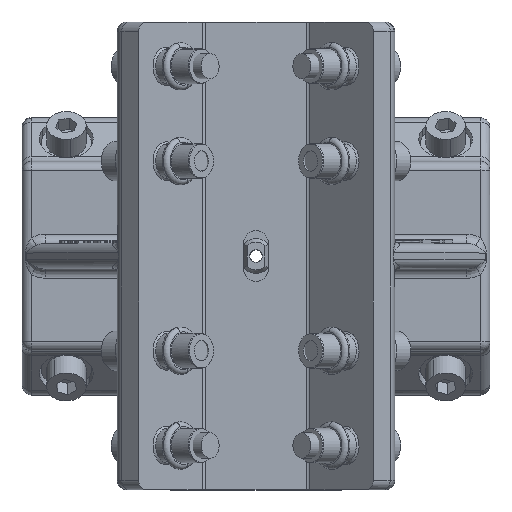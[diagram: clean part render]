
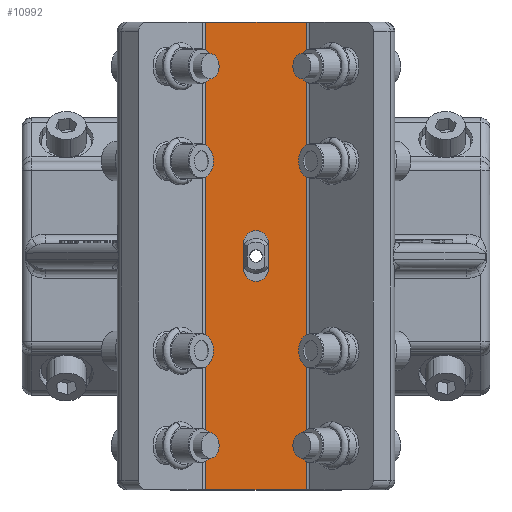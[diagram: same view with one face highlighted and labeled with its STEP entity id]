
A CAD part, top view. The second image highlights one B-rep face of the part: STEP entity #10992.
In plain terms, the highlighted planar face has unit normal (0, 0, 1).
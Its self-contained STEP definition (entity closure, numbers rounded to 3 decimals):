
#8354=CARTESIAN_POINT('Vertex',(15.947,-74.,80.)) ;
#8357=CARTESIAN_POINT('Line Origine',(0.,-74.,80.)) ;
#8361=CARTESIAN_POINT('Vertex',(-15.947,-74.,80.)) ;
#10916=CARTESIAN_POINT('Line Origine',(15.947,0.,80.)) ;
#10920=CARTESIAN_POINT('Vertex',(15.947,74.,80.)) ;
#10935=CARTESIAN_POINT('Axis2P3D Location',(15.947,0.,80.)) ;
#10940=CARTESIAN_POINT('Line Origine',(-15.947,0.,80.)) ;
#10944=CARTESIAN_POINT('Vertex',(-15.947,74.,80.)) ;
#10947=CARTESIAN_POINT('Line Origine',(0.,74.,80.)) ;
#10958=CARTESIAN_POINT('Axis2P3D Location',(0.,-4.,80.)) ;
#10962=CARTESIAN_POINT('Vertex',(-4.,-4.,80.)) ;
#10964=CARTESIAN_POINT('Vertex',(4.,-4.,80.)) ;
#10967=CARTESIAN_POINT('Line Origine',(-4.,0.,80.)) ;
#10971=CARTESIAN_POINT('Vertex',(-4.,4.,80.)) ;
#10974=CARTESIAN_POINT('Axis2P3D Location',(0.,4.,80.)) ;
#10978=CARTESIAN_POINT('Vertex',(4.,4.,80.)) ;
#10981=CARTESIAN_POINT('Line Origine',(4.,0.,80.)) ;
#8358=DIRECTION('Vector Direction',(-1.,0.,0.)) ;
#10917=DIRECTION('Vector Direction',(0.,1.,0.)) ;
#10936=DIRECTION('Axis2P3D Direction',(0.,0.,-1.)) ;
#10937=DIRECTION('Axis2P3D XDirection',(-1.,0.,0.)) ;
#10941=DIRECTION('Vector Direction',(0.,1.,0.)) ;
#10948=DIRECTION('Vector Direction',(-1.,0.,0.)) ;
#10959=DIRECTION('Axis2P3D Direction',(0.,0.,-1.)) ;
#10968=DIRECTION('Vector Direction',(0.,1.,0.)) ;
#10975=DIRECTION('Axis2P3D Direction',(0.,0.,-1.)) ;
#10982=DIRECTION('Vector Direction',(0.,-1.,0.)) ;
#10938=AXIS2_PLACEMENT_3D('Plane Axis2P3D',#10935,#10936,#10937) ;
#10960=AXIS2_PLACEMENT_3D('Circle Axis2P3D',#10958,#10959,$) ;
#10976=AXIS2_PLACEMENT_3D('Circle Axis2P3D',#10974,#10975,$) ;
#10953=ORIENTED_EDGE('',*,*,#10946,.F.) ;
#10954=ORIENTED_EDGE('',*,*,#8363,.T.) ;
#10955=ORIENTED_EDGE('',*,*,#10922,.T.) ;
#10956=ORIENTED_EDGE('',*,*,#10951,.F.) ;
#10987=ORIENTED_EDGE('',*,*,#10966,.F.) ;
#10988=ORIENTED_EDGE('',*,*,#10973,.F.) ;
#10989=ORIENTED_EDGE('',*,*,#10980,.F.) ;
#10990=ORIENTED_EDGE('',*,*,#10985,.F.) ;
#10991=FACE_BOUND('',#10986,.T.) ;
#8359=VECTOR('Line Direction',#8358,1.) ;
#10918=VECTOR('Line Direction',#10917,1.) ;
#10942=VECTOR('Line Direction',#10941,1.) ;
#10949=VECTOR('Line Direction',#10948,1.) ;
#10969=VECTOR('Line Direction',#10968,1.) ;
#10983=VECTOR('Line Direction',#10982,1.) ;
#10992=ADVANCED_FACE('Kreuzverbindung SW80 zu SW80',(#10957,#10991),#10939,.F.) ;
#10961=CIRCLE('generated circle',#10960,4.) ;
#10977=CIRCLE('generated circle',#10976,4.) ;
#8363=EDGE_CURVE('',#8362,#8355,#8360,.F.) ;
#10922=EDGE_CURVE('',#8355,#10921,#10919,.T.) ;
#10946=EDGE_CURVE('',#8362,#10945,#10943,.T.) ;
#10951=EDGE_CURVE('',#10945,#10921,#10950,.F.) ;
#10966=EDGE_CURVE('',#10963,#10965,#10961,.F.) ;
#10973=EDGE_CURVE('',#10972,#10963,#10970,.F.) ;
#10980=EDGE_CURVE('',#10979,#10972,#10977,.F.) ;
#10985=EDGE_CURVE('',#10965,#10979,#10984,.F.) ;
#10952=EDGE_LOOP('',(#10953,#10954,#10955,#10956)) ;
#10986=EDGE_LOOP('',(#10987,#10988,#10989,#10990)) ;
#10957=FACE_OUTER_BOUND('',#10952,.T.) ;
#8360=LINE('Line',#8357,#8359) ;
#10919=LINE('Line',#10916,#10918) ;
#10943=LINE('Line',#10940,#10942) ;
#10950=LINE('Line',#10947,#10949) ;
#10970=LINE('Line',#10967,#10969) ;
#10984=LINE('Line',#10981,#10983) ;
#10939=PLANE('',#10938) ;
#8355=VERTEX_POINT('',#8354) ;
#8362=VERTEX_POINT('',#8361) ;
#10921=VERTEX_POINT('',#10920) ;
#10945=VERTEX_POINT('',#10944) ;
#10963=VERTEX_POINT('',#10962) ;
#10965=VERTEX_POINT('',#10964) ;
#10972=VERTEX_POINT('',#10971) ;
#10979=VERTEX_POINT('',#10978) ;
